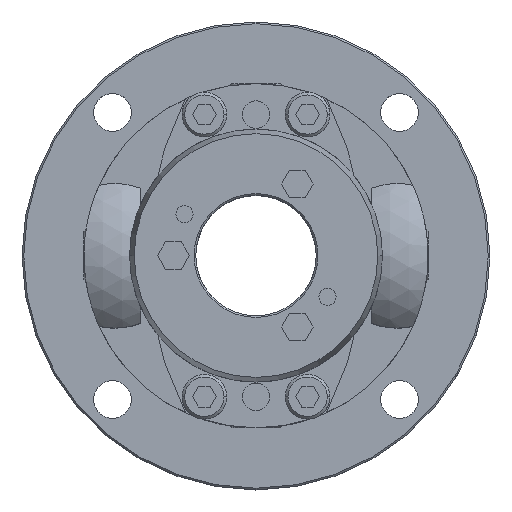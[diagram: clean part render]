
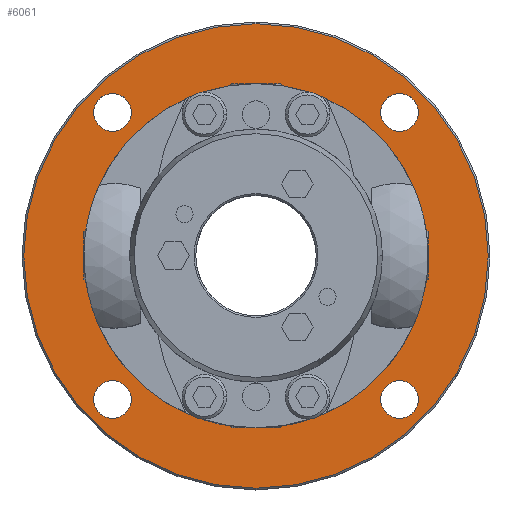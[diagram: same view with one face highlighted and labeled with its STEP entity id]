
A CAD part, top view. The second image highlights one B-rep face of the part: STEP entity #6061.
In plain terms, the highlighted planar face has unit normal (0, 0, 1).
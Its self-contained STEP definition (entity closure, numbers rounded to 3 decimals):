
#1040=CARTESIAN_POINT('',(0.,50.,-20.0));
#1041=VERTEX_POINT('',#1040);
#1157=CARTESIAN_POINT('',(0.,-50.,-20.0));
#1158=VERTEX_POINT('',#1157);
#1165=CARTESIAN_POINT('',(0.0,0.,-20.0));
#1166=DIRECTION('',(0.0,0.0,-1.0));
#1167=DIRECTION('',(0.0,1.0,0.0));
#1168=AXIS2_PLACEMENT_3D('',#1165,#1166,#1167);
#1169=CIRCLE('',#1168,50.0);
#1170=EDGE_CURVE('',#1041,#1158,#1169,.T.);
#1357=CARTESIAN_POINT('',(-41.719,47.219,-20.0));
#1358=VERTEX_POINT('',#1357);
#1367=CARTESIAN_POINT('',(-41.719,36.219,-20.0));
#1368=VERTEX_POINT('',#1367);
#1369=CARTESIAN_POINT('',(-41.719,41.719,-20.0));
#1370=DIRECTION('',(0.0,0.0,-1.0));
#1371=DIRECTION('',(0.0,1.0,0.0));
#1372=AXIS2_PLACEMENT_3D('',#1369,#1370,#1371);
#1373=CIRCLE('',#1372,5.5);
#1374=EDGE_CURVE('',#1368,#1358,#1373,.T.);
#1399=CARTESIAN_POINT('',(-41.719,-36.219,-20.0));
#1400=VERTEX_POINT('',#1399);
#1409=CARTESIAN_POINT('',(-41.719,-47.219,-20.0));
#1410=VERTEX_POINT('',#1409);
#1411=CARTESIAN_POINT('',(-41.719,-41.719,-20.0));
#1412=DIRECTION('',(0.0,0.0,-1.0));
#1413=DIRECTION('',(0.0,1.0,0.0));
#1414=AXIS2_PLACEMENT_3D('',#1411,#1412,#1413);
#1415=CIRCLE('',#1414,5.5);
#1416=EDGE_CURVE('',#1410,#1400,#1415,.T.);
#1441=CARTESIAN_POINT('',(41.719,-36.219,-20.0));
#1442=VERTEX_POINT('',#1441);
#1451=CARTESIAN_POINT('',(41.719,-47.219,-20.0));
#1452=VERTEX_POINT('',#1451);
#1453=CARTESIAN_POINT('',(41.719,-41.719,-20.0));
#1454=DIRECTION('',(0.0,0.0,-1.0));
#1455=DIRECTION('',(0.0,1.0,0.0));
#1456=AXIS2_PLACEMENT_3D('',#1453,#1454,#1455);
#1457=CIRCLE('',#1456,5.5);
#1458=EDGE_CURVE('',#1452,#1442,#1457,.T.);
#1483=CARTESIAN_POINT('',(41.719,47.219,-20.0));
#1484=VERTEX_POINT('',#1483);
#1493=CARTESIAN_POINT('',(41.719,36.219,-20.0));
#1494=VERTEX_POINT('',#1493);
#1495=CARTESIAN_POINT('',(41.719,41.719,-20.0));
#1496=DIRECTION('',(0.0,0.0,-1.0));
#1497=DIRECTION('',(0.0,1.0,0.0));
#1498=AXIS2_PLACEMENT_3D('',#1495,#1496,#1497);
#1499=CIRCLE('',#1498,5.5);
#1500=EDGE_CURVE('',#1494,#1484,#1499,.T.);
#2105=CARTESIAN_POINT('',(0.,-67.5,-20.0));
#2106=VERTEX_POINT('',#2105);
#2115=CARTESIAN_POINT('',(0.,67.5,-20.0));
#2116=VERTEX_POINT('',#2115);
#2117=CARTESIAN_POINT('',(0.0,0.,-20.0));
#2118=DIRECTION('',(0.0,0.0,-1.0));
#2119=DIRECTION('',(0.0,-1.0,0.0));
#2120=AXIS2_PLACEMENT_3D('',#2117,#2118,#2119);
#2121=CIRCLE('',#2120,67.5);
#2122=EDGE_CURVE('',#2106,#2116,#2121,.T.);
#5992=CARTESIAN_POINT('',(0.0,0.,-20.0));
#5993=DIRECTION('',(0.0,0.0,-1.0));
#5994=DIRECTION('',(0.0,-1.0,0.0));
#5995=AXIS2_PLACEMENT_3D('',#5992,#5993,#5994);
#5996=CIRCLE('',#5995,67.5);
#5997=EDGE_CURVE('',#2116,#2106,#5996,.T.);
#6002=CARTESIAN_POINT('',(0.,6.182,-20.0));
#6003=DIRECTION('',(0.0,0.0,1.0));
#6004=DIRECTION('',(0.0,1.0,0.0));
#6005=AXIS2_PLACEMENT_3D('',#6002,#6003,#6004);
#6006=PLANE('',#6005);
#6007=ORIENTED_EDGE('',*,*,#5997,.F.);
#6008=ORIENTED_EDGE('',*,*,#2122,.F.);
#6009=EDGE_LOOP('',(#6007,#6008));
#6010=FACE_OUTER_BOUND('',#6009,.T.);
#6011=CARTESIAN_POINT('',(0.0,0.,-20.0));
#6012=DIRECTION('',(0.0,0.0,-1.0));
#6013=DIRECTION('',(0.0,1.0,0.0));
#6014=AXIS2_PLACEMENT_3D('',#6011,#6012,#6013);
#6015=CIRCLE('',#6014,50.0);
#6016=EDGE_CURVE('',#1158,#1041,#6015,.T.);
#6017=ORIENTED_EDGE('',*,*,#6016,.T.);
#6018=ORIENTED_EDGE('',*,*,#1170,.T.);
#6019=EDGE_LOOP('',(#6017,#6018));
#6020=FACE_BOUND('',#6019,.T.);
#6021=ORIENTED_EDGE('',*,*,#1374,.T.);
#6022=CARTESIAN_POINT('',(-41.719,41.719,-20.0));
#6023=DIRECTION('',(0.0,0.0,-1.0));
#6024=DIRECTION('',(0.0,1.0,0.0));
#6025=AXIS2_PLACEMENT_3D('',#6022,#6023,#6024);
#6026=CIRCLE('',#6025,5.5);
#6027=EDGE_CURVE('',#1358,#1368,#6026,.T.);
#6028=ORIENTED_EDGE('',*,*,#6027,.T.);
#6029=EDGE_LOOP('',(#6021,#6028));
#6030=FACE_BOUND('',#6029,.T.);
#6031=ORIENTED_EDGE('',*,*,#1416,.T.);
#6032=CARTESIAN_POINT('',(-41.719,-41.719,-20.0));
#6033=DIRECTION('',(0.0,0.0,-1.0));
#6034=DIRECTION('',(0.0,1.0,0.0));
#6035=AXIS2_PLACEMENT_3D('',#6032,#6033,#6034);
#6036=CIRCLE('',#6035,5.5);
#6037=EDGE_CURVE('',#1400,#1410,#6036,.T.);
#6038=ORIENTED_EDGE('',*,*,#6037,.T.);
#6039=EDGE_LOOP('',(#6031,#6038));
#6040=FACE_BOUND('',#6039,.T.);
#6041=ORIENTED_EDGE('',*,*,#1458,.T.);
#6042=CARTESIAN_POINT('',(41.719,-41.719,-20.0));
#6043=DIRECTION('',(0.0,0.0,-1.0));
#6044=DIRECTION('',(0.0,1.0,0.0));
#6045=AXIS2_PLACEMENT_3D('',#6042,#6043,#6044);
#6046=CIRCLE('',#6045,5.5);
#6047=EDGE_CURVE('',#1442,#1452,#6046,.T.);
#6048=ORIENTED_EDGE('',*,*,#6047,.T.);
#6049=EDGE_LOOP('',(#6041,#6048));
#6050=FACE_BOUND('',#6049,.T.);
#6051=ORIENTED_EDGE('',*,*,#1500,.T.);
#6052=CARTESIAN_POINT('',(41.719,41.719,-20.0));
#6053=DIRECTION('',(0.0,0.0,-1.0));
#6054=DIRECTION('',(0.0,1.0,0.0));
#6055=AXIS2_PLACEMENT_3D('',#6052,#6053,#6054);
#6056=CIRCLE('',#6055,5.5);
#6057=EDGE_CURVE('',#1484,#1494,#6056,.T.);
#6058=ORIENTED_EDGE('',*,*,#6057,.T.);
#6059=EDGE_LOOP('',(#6051,#6058));
#6060=FACE_BOUND('',#6059,.T.);
#6061=ADVANCED_FACE('',(#6010,#6020,#6030,#6040,#6050,#6060),#6006,.T.);
